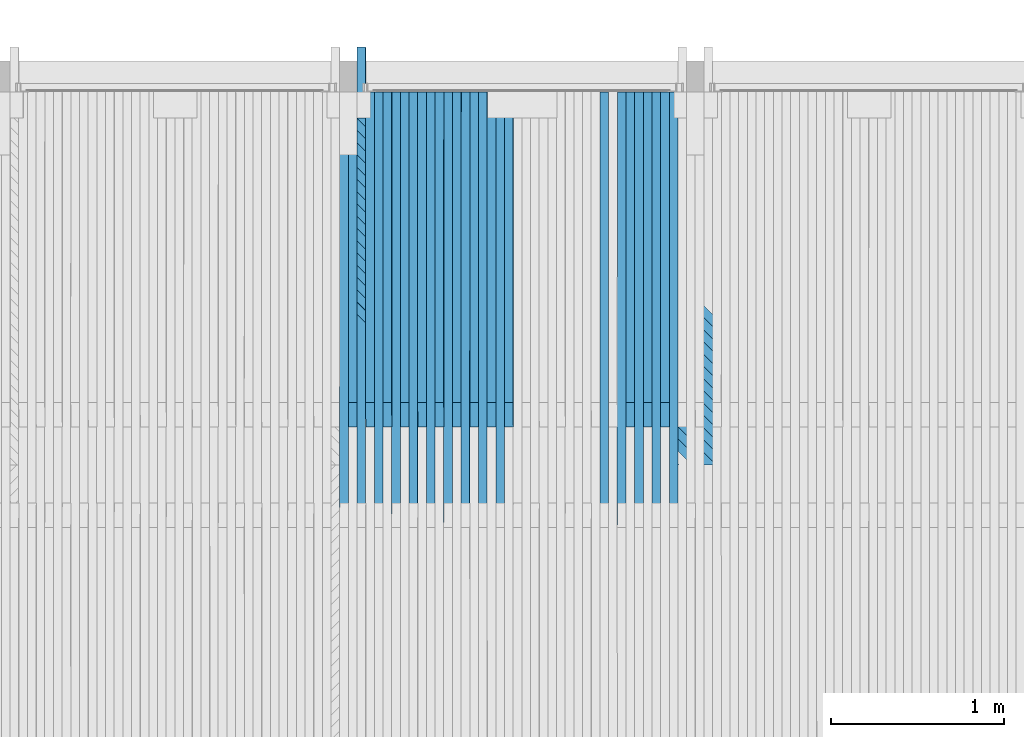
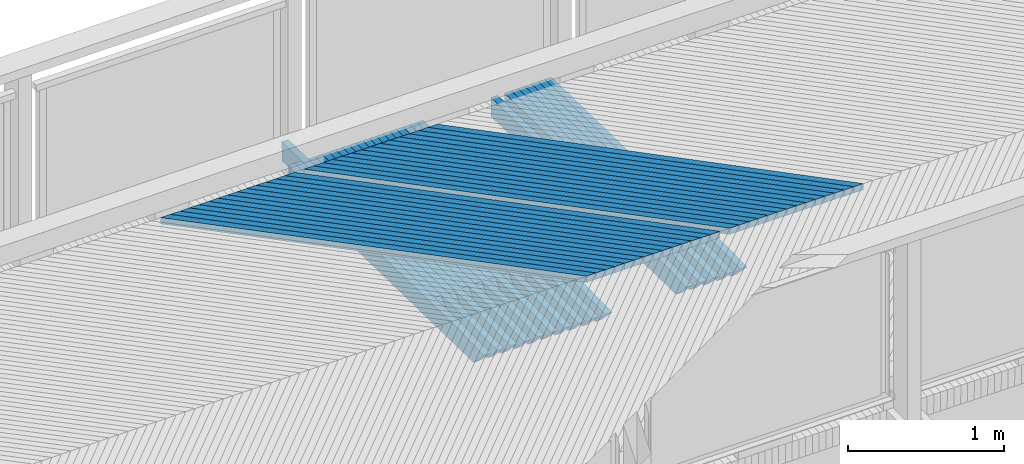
# One storey, part 25 of 65: 56 beams.
"""IFC2X3 building model written with IfcOpenShell, lengths in millimetres."""

from ifc_helpers import new_model, si_unit, frame, origin_with_axes, place, context, subcontext, project, spatial, faceted_brep, material, type_object, element, save


model = new_model("IFC2X3")

# Units and contexts
model_context = context("Model", 3, precision=1e-05, world=origin_with_axes())
body_context = subcontext(model_context, "Body", "Model", "MODEL_VIEW")
ifc_project = project(units=[si_unit("LENGTHUNIT", "METRE", prefix="MILLI"), si_unit("AREAUNIT", "SQUARE_METRE"), si_unit("VOLUMEUNIT", "CUBIC_METRE"), si_unit("MASSUNIT", "GRAM", prefix="KILO"), si_unit("TIMEUNIT", "SECOND"), si_unit("PLANEANGLEUNIT", "RADIAN"), si_unit("SOLIDANGLEUNIT", "STERADIAN"), si_unit("THERMODYNAMICTEMPERATUREUNIT", "DEGREE_CELSIUS"), si_unit("LUMINOUSINTENSITYUNIT", "LUMEN")], contexts=[model_context])

# Site, building, storey
site_placement = place(None, origin_with_axes())
site = spatial("IfcSite", under=ifc_project, at=site_placement, Name="Undefined", CompositionType="ELEMENT")
building_placement = place(site_placement, origin_with_axes())
building = spatial("IfcBuilding", under=site, at=building_placement, Name="Undefined", CompositionType="ELEMENT")
storey_placement = place(building_placement, origin_with_axes())
storey = spatial("IfcBuildingStorey", under=building, at=storey_placement, Name="Undefined", CompositionType="ELEMENT", Elevation=0.0)

# Beams
ifc_material = material(Name="TIMBER/Timber_Undefined")
beam_type_1 = type_object("IfcBeamType", Name="50*50", PredefinedType="NOTDEFINED")
for number, where, z_axis, x_axis, name in (
    (1, (6933.49514567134, 22365.4998996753, 3235.17752037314), (0.707136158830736, 0.706981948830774, -0.0116179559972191), (-0.707068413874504, 0.706948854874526, -0.016660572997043), "BEAM"),
    (2, (6862.77103065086, 22365.4998996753, 3235.04809435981), (0.707137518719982, 0.706981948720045, -0.0115348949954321), (-0.707066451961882, 0.706948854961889, -0.0167436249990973), "BEAM"),
    (3, (6792.04693132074, 22365.4998996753, 3234.91036104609), (0.707138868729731, 0.706981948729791, -0.0114518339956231), (-0.707064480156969, 0.706948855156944, -0.0168266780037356), "BEAM"),
    (4, (6721.32284865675, 22365.4998996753, 3234.76432043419), (0.707140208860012, 0.706981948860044, -0.0113687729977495), (-0.707062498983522, 0.706948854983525, -0.0169097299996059), "BEAM"),
    (5, (6650.59878363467, 22365.4998996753, 3234.60997252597), (0.707141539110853, 0.706981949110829, -0.011285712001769), (-0.707060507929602, 0.706948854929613, -0.0169927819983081), "BEAM"),
    (6, (6579.8747372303, 22365.4998996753, 3234.44731732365), (0.707142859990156, 0.706981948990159, -0.0112026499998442), (-0.707058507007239, 0.706948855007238, -0.0170758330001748), "BEAM"),
    (7, (6509.1507104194, 22365.4998996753, 3234.27635482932), (0.707144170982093, 0.706981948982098, -0.0111195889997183), (-0.707056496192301, 0.706948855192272, -0.0171588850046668), "BEAM"),
    (8, (6438.42670417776, 22365.4998996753, 3234.09708504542), (0.707145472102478, 0.706981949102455, -0.0110365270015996), (-0.707054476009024, 0.706948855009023, -0.01724193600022), "BEAM"),
    (9, (6367.70271948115, 22365.4998996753, 3233.9095079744), (0.707146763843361, 0.706981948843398, -0.0109534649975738), (-0.707052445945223, 0.706948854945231, -0.0173249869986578), "BEAM"),
    (10, (6296.97875730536, 22365.4998996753, 3233.71362361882), (0.707148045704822, 0.706981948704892, -0.0108704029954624), (-0.707050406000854, 0.706948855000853, -0.0174080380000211), "BEAM"),
    (11, (6226.25481862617, 22365.4998996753, 3233.5094319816), (0.70714931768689, 0.706981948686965, -0.0107873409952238), (-0.707048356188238, 0.706948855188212, -0.0174910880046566), "BEAM"),
    (12, (6155.53090441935, 22365.4998996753, 3233.29693306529), (0.707150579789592, 0.706981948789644, -0.0107042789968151), (-0.707046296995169, 0.706948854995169, -0.01757413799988), "BEAM"),
    (13, (6084.80701566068, 22365.4998996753, 3233.07612687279), (0.707151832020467, 0.706981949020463, -0.0106212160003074), (-0.70704422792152, 0.706948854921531, -0.01765718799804), "BEAM"),
    (14, (6014.08315332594, 22365.4998996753, 3232.84701340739), (0.707153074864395, 0.706981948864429, -0.010538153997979), (-0.707042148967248, 0.706948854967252, -0.0177402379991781), "BEAM"),
    (15, (5872.63551183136, 22365.4998996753, 3232.36386467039), (0.707155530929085, 0.706981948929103, -0.0103720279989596), (-0.707037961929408, 0.706948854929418, -0.0179063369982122), "BEAM"),
    (16, (5801.91173462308, 22365.4998996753, 3232.10982940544), (0.707156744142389, 0.706981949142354, -0.0102889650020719), (-0.707035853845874, 0.706948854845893, -0.0179893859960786), "BEAM"),
    (17, (5731.18798774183, 22365.4998996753, 3231.84748688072), (0.707157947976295, 0.706981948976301, -0.010205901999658), (-0.707033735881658, 0.706948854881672, -0.0180724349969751), "BEAM"),
    (18, (5660.46427216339, 22365.4998996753, 3231.57683709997), (0.707159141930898, 0.706981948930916, -0.0101228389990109), (-0.707031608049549, 0.706948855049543, -0.0181554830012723), "BEAM"),
    (19, (5589.74058886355, 22365.4998996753, 3231.29788006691), (0.707160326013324, 0.706981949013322, -0.0100397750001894), (-0.707029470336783, 0.706948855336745, -0.0182385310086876), "BEAM"),
    (20, (5519.01693881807, 22365.4998996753, 3231.01061578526), (0.707161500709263, 0.706981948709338, -0.00995671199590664), (-0.707027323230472, 0.706948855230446, -0.0183215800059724), "BEAM"),
    (21, (5448.29332300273, 22365.4998996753, 3230.71504425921), (0.707162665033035, 0.706981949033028, -0.00987364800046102), (-0.707025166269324, 0.706948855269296, -0.0184046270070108), "BEAM"),
    (22, (5377.5697423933, 22365.4998996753, 3230.41116549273), (0.707163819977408, 0.706981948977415, -0.00979058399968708), (-0.70702299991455, 0.706948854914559, -0.0184876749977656), "BEAM"),
    (23, (5306.84619796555, 22365.4998996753, 3230.09897948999), (0.707164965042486, 0.706981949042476, -0.00970752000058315), (-0.707020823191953, 0.706948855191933, -0.0185707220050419), "BEAM"),
    (24, (5236.12269069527, 22365.4998996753, 3229.77848625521), (0.707166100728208, 0.70698194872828, -0.00962445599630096), (-0.707018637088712, 0.706948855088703, -0.0186537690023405), "BEAM"),
    (25, (5165.39922155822, 22365.4998996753, 3229.44968579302), (0.707167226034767, 0.706981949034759, -0.00954139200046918), (-0.707016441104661, 0.706948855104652, -0.0187368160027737), "BEAM"),
    (26, (5094.67579153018, 22365.4998996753, 3229.11257810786), (0.707168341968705, 0.706981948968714, -0.00945832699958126), (-0.70701423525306, 0.706948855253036, -0.0188198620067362), "BEAM"),
    (27, (5023.95240158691, 22365.4998996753, 3228.76716320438), (0.707169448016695, 0.706981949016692, -0.00937526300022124), (-0.70701202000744, 0.706948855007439, -0.0189029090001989), "BEAM"),
    (28, (4953.22905270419, 22365.4998996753, 3228.41344108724), (0.707170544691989, 0.706981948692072, -0.00929219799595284), (-0.70700979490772, 0.706948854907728, -0.018985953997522), "BEAM"),
):
    element("IfcBeam", number, at=place(storey_placement, frame(where, z_axis=z_axis, x_axis=x_axis)), inside=storey, type_object=beam_type_1, material=ifc_material, Name=name, ObjectType="50*50", context=body_context, shape_type="Brep", body=[
        faceted_brep([(23.5869248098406, 24.9999999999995, -24.9999999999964), (-26.4154158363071, 24.9999999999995, 24.9999999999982), (2802.92643296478, 25.0, 25.0), (2852.92877373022, 25.0000000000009, -25.0), (-25.0011704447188, -25.0, 24.9999999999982), (2804.34067830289, -25.0, 25.0000000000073), (25.0011701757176, -25.0000000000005, -24.9999999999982), (2854.34301907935, -24.9999999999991, -25.0000000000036)], [[[0, 1, 2, 3]], [[1, 4, 5, 2]], [[4, 6, 7, 5]], [[6, 0, 3, 7]], [[5, 7, 3, 2]], [[6, 4, 1, 0]]]),
    ])
beam_type_2 = type_object("IfcBeamType", Name="150*50", PredefinedType="NOTDEFINED")
for number, where, z_axis, x_axis, name in (
    (29, (5875.95475998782, 24513.4953923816, 3089.40059139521), (-0.00361017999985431, 0.0199960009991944, 0.999793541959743), (-7.22040000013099e-05, -0.999800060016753, 0.019995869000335), "BEAM"),
    (30, (5775.93537890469, 24513.4953923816, 3089.0393605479), (-0.00377630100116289, 0.0199960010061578, 0.999792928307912), (-7.55270000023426e-05, -0.999800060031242, 0.0199958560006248), "BEAM"),
):
    element("IfcBeam", number, at=place(storey_placement, frame(where, z_axis=z_axis, x_axis=x_axis)), inside=storey, type_object=beam_type_2, material=ifc_material, Name=name, ObjectType="150*50", context=body_context, shape_type="Brep", body=[
        faceted_brep([(-1.6778358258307e-07, -24.9999999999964, -74.9999999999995), (-1.6778358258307e-07, 25.0000000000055, -75.0), (2375.00494422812, 25.0000000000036, -75.0), (2375.00494447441, -24.9999999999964, -74.9999999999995), (1.67790858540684e-07, -24.9999999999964, 75.0000000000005), (1.67790858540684e-07, 25.0000000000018, 74.9999999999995), (2150.42515052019, 25.0000000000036, 74.9999999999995), (2510.59248715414, 25.0000000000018, 60.5875433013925), (2510.59248714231, -24.9999999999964, 60.5875430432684), (2150.42514405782, -24.9999999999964, 75.0000000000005)], [[[0, 1, 2, 3]], [[0, 4, 5, 1]], [[2, 1, 5, 6, 7]], [[3, 2, 7, 8]], [[4, 0, 3, 8, 9]], [[5, 4, 9, 6]], [[8, 7, 6, 9]]]),
    ])
beam_1_placement = place(storey_placement, frame((5825.95508575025, 24513.4953923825, 3089.21997974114), z_axis=(-0.00361017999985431, 0.0199960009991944, 0.999793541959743), x_axis=(-7.22040000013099e-05, -0.999800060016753, 0.019995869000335)))
element("IfcBeam", 31, at=beam_1_placement, inside=storey, type_object=beam_type_2, material=ifc_material, Name="BEAM", ObjectType="150*50", context=body_context, shape_type="Brep", body=[
    faceted_brep([(-1.6778358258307e-07, -24.9999999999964, -74.9999999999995), (1.67790858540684e-07, -24.9999999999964, 75.0000000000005), (1.67790858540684e-07, 25.0000000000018, 74.9999999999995), (-1.6778358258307e-07, 25.0000000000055, -75.0), (1928.42646328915, 24.9999999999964, -75.0), (1928.42646353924, -25.0, -75.0000000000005), (1789.96936433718, -25.0000000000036, 74.9999999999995), (1789.96936408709, 24.9999999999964, 75.0)], [[[0, 1, 2, 3]], [[0, 3, 4, 5]], [[1, 0, 5, 6]], [[2, 1, 6, 7]], [[3, 2, 7, 4]], [[4, 7, 6, 5]]]),
])
beam_2_placement = place(storey_placement, frame((5675.91605922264, 24513.4953923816, 3088.66151095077), z_axis=(-0.00394242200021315, 0.0199960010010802, 0.999792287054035), x_axis=(-7.88490000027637e-05, -0.999800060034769, 0.0199958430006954)))
element("IfcBeam", 32, at=beam_2_placement, inside=storey, type_object=beam_type_2, material=ifc_material, Name="BEAM", ObjectType="150*50", context=body_context, shape_type="Brep", body=[
    faceted_brep([(-1.6778358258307e-07, -24.9999999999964, -74.9999999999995), (-1.6778358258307e-07, 25.0000000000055, -75.0), (2375.00494422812, 25.0000000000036, -75.0), (2375.00494447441, -24.9999999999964, -74.9999999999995), (1.67790858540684e-07, -24.9999999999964, 75.0000000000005), (1.67790858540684e-07, 25.0000000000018, 74.9999999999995), (2150.42515052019, 25.0000000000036, 74.9999999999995), (2510.59248715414, 25.0000000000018, 60.5875433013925), (2510.59248714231, -24.9999999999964, 60.5875430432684), (2150.42514405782, -24.9999999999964, 75.0000000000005)], [[[0, 1, 2, 3]], [[0, 4, 5, 1]], [[2, 1, 5, 6, 7]], [[3, 2, 7, 8]], [[4, 0, 3, 8, 9]], [[5, 4, 9, 6]], [[8, 7, 6, 9]]]),
])
beam_3_placement = place(storey_placement, frame((5725.9357353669, 24513.4953923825, 3088.8504411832), z_axis=(-0.00377630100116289, 0.0199960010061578, 0.999792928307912), x_axis=(-7.55270000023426e-05, -0.999800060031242, 0.0199958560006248)))
element("IfcBeam", 33, at=beam_3_placement, inside=storey, type_object=beam_type_2, material=ifc_material, Name="BEAM", ObjectType="150*50", context=body_context, shape_type="Brep", body=[
    faceted_brep([(-1.6778358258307e-07, -24.9999999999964, -74.9999999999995), (1.67790858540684e-07, -24.9999999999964, 75.0000000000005), (1.67790858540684e-07, 25.0000000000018, 74.9999999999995), (-1.6778358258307e-07, 25.0000000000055, -75.0), (1928.42646328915, 24.9999999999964, -75.0), (1928.42646353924, -25.0, -75.0000000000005), (1789.96936433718, -25.0000000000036, 74.9999999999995), (1789.96936408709, 24.9999999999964, 75.0)], [[[0, 1, 2, 3]], [[0, 3, 4, 5]], [[1, 0, 5, 6]], [[2, 1, 6, 7]], [[3, 2, 7, 4]], [[4, 7, 6, 5]]]),
])
beam_4_placement = place(storey_placement, frame((5575.89680370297, 24513.4953923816, 3088.2670426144), z_axis=(-0.00410854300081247, 0.0199960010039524, 0.999791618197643), x_axis=(-8.21720000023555e-05, -0.99980006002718, 0.0199958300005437)))
element("IfcBeam", 34, at=beam_4_placement, inside=storey, type_object=beam_type_2, material=ifc_material, Name="BEAM", ObjectType="150*50", context=body_context, shape_type="Brep", body=[
    faceted_brep([(-1.6778358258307e-07, -24.9999999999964, -74.9999999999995), (-1.6778358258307e-07, 25.0000000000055, -75.0), (2375.00494422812, 25.0000000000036, -75.0), (2375.00494447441, -24.9999999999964, -74.9999999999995), (1.67790858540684e-07, -24.9999999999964, 75.0000000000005), (1.67790858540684e-07, 25.0000000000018, 74.9999999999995), (2150.42515052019, 25.0000000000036, 74.9999999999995), (2510.59248715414, 25.0000000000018, 60.5875433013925), (2510.59248714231, -24.9999999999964, 60.5875430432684), (2150.42514405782, -24.9999999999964, 75.0000000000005)], [[[0, 1, 2, 3]], [[0, 4, 5, 1]], [[2, 1, 5, 6, 7]], [[3, 2, 7, 8]], [[4, 0, 3, 8, 9]], [[5, 4, 9, 6]], [[8, 7, 6, 9]]]),
])
beam_5_placement = place(storey_placement, frame((5625.916447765, 24513.4953923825, 3088.46428388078), z_axis=(-0.00394242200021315, 0.0199960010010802, 0.999792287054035), x_axis=(-7.88490000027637e-05, -0.999800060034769, 0.0199958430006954)))
element("IfcBeam", 35, at=beam_5_placement, inside=storey, type_object=beam_type_2, material=ifc_material, Name="BEAM", ObjectType="150*50", context=body_context, shape_type="Brep", body=[
    faceted_brep([(-1.6778358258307e-07, -24.9999999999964, -74.9999999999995), (1.67790858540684e-07, -24.9999999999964, 75.0000000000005), (1.67790858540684e-07, 25.0000000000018, 74.9999999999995), (-1.6778358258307e-07, 25.0000000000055, -75.0), (1928.42646328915, 24.9999999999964, -75.0), (1928.42646353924, -25.0, -75.0000000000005), (1789.96936433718, -25.0000000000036, 74.9999999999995), (1789.96936408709, 24.9999999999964, 75.0)], [[[0, 1, 2, 3]], [[0, 3, 4, 5]], [[1, 0, 5, 6]], [[2, 1, 6, 7]], [[3, 2, 7, 4]], [[4, 7, 6, 5]]]),
])
for number, where, z_axis, x_axis, name in (
    (36, (5475.87761510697, 24513.4953923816, 3087.85595554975), (-0.00427466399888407, 0.0199960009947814, 0.999790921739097), (-8.54940000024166e-05, -0.999800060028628, 0.0199958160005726), "BEAM"),
    (37, (4875.76404356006, 24513.4953923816, 3085.04044053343), (-0.00527138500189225, 0.0199960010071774, 0.999786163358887), (-0.000105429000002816, -0.999800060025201, 0.019995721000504), "BEAM"),
):
    element("IfcBeam", number, at=place(storey_placement, frame(where, z_axis=z_axis, x_axis=x_axis)), inside=storey, type_object=beam_type_2, material=ifc_material, Name=name, ObjectType="150*50", context=body_context, shape_type="Brep", body=[
        faceted_brep([(-1.6778358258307e-07, -24.9999999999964, -74.9999999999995), (-1.6778358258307e-07, 25.0000000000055, -75.0), (2375.00494422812, 25.0000000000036, -75.0), (2375.00494447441, -24.9999999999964, -74.9999999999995), (1.67790858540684e-07, -24.9999999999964, 75.0000000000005), (1.67790858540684e-07, 25.0000000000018, 74.9999999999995), (2150.42515052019, 25.0000000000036, 74.9999999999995), (2510.59248715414, 25.0000000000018, 60.5875433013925), (2510.59248714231, -24.9999999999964, 60.5875430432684), (2150.42514405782, -24.9999999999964, 75.0000000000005)], [[[0, 1, 2, 3]], [[0, 4, 5, 1]], [[2, 1, 5, 6, 7]], [[3, 2, 7, 8]], [[4, 0, 3, 8, 9]], [[5, 4, 9, 6]], [[8, 7, 6, 9]]]),
    ])
beam_6_placement = place(storey_placement, frame((4925.78342438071, 24513.4953923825, 3085.29585887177), z_axis=(-0.00510526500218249, 0.0199960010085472, 0.999787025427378), x_axis=(-0.000102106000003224, -0.999800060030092, 0.0199957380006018)))
element("IfcBeam", 38, at=beam_6_placement, inside=storey, type_object=beam_type_2, material=ifc_material, Name="BEAM", ObjectType="150*50", context=body_context, shape_type="Brep", body=[
    faceted_brep([(-1.6778358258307e-07, -24.9999999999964, -74.9999999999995), (1.67790858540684e-07, -24.9999999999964, 75.0000000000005), (1.67790858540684e-07, 25.0000000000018, 74.9999999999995), (-1.6778358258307e-07, 25.0000000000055, -75.0), (1928.42646328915, 24.9999999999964, -75.0), (1928.42646353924, -25.0, -75.0000000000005), (1789.96936433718, -25.0000000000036, 74.9999999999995), (1789.96936408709, 24.9999999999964, 75.0)], [[[0, 1, 2, 3]], [[0, 3, 4, 5]], [[1, 0, 5, 6]], [[2, 1, 6, 7]], [[3, 2, 7, 4]], [[4, 7, 6, 5]]]),
])
beam_7_placement = place(storey_placement, frame((4775.74540074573, 24513.4953923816, 3084.51302271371), z_axis=(-0.00543750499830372, 0.0199960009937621, 0.999785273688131), x_axis=(-0.000108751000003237, -0.99980006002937, 0.0199957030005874)))
element("IfcBeam", 39, at=beam_7_placement, inside=storey, type_object=beam_type_2, material=ifc_material, Name="BEAM", ObjectType="150*50", context=body_context, shape_type="Brep", body=[
    faceted_brep([(-1.6778358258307e-07, -24.9999999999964, -74.9999999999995), (-1.6778358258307e-07, 25.0000000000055, -75.0), (2375.00494422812, 25.0000000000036, -75.0), (2375.00494447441, -24.9999999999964, -74.9999999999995), (1.67790858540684e-07, -24.9999999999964, 75.0000000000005), (1.67790858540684e-07, 25.0000000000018, 74.9999999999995), (2150.42515052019, 25.0000000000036, 74.9999999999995), (2510.59248715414, 25.0000000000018, 60.5875433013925), (2510.59248714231, -24.9999999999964, 60.5875430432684), (2150.42514405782, -24.9999999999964, 75.0000000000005)], [[[0, 1, 2, 3]], [[0, 4, 5, 1]], [[2, 1, 5, 6, 7]], [[3, 2, 7, 8]], [[4, 0, 3, 8, 9]], [[5, 4, 9, 6]], [[8, 7, 6, 9]]]),
])
beam_8_placement = place(storey_placement, frame((4825.7647384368, 24513.4953923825, 3084.77675203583), z_axis=(-0.00527138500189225, 0.0199960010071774, 0.999786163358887), x_axis=(-0.000105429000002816, -0.999800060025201, 0.019995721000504)))
element("IfcBeam", 40, at=beam_8_placement, inside=storey, type_object=beam_type_2, material=ifc_material, Name="BEAM", ObjectType="150*50", context=body_context, shape_type="Brep", body=[
    faceted_brep([(-1.6778358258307e-07, -24.9999999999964, -74.9999999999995), (1.67790858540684e-07, -24.9999999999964, 75.0000000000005), (1.67790858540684e-07, 25.0000000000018, 74.9999999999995), (-1.6778358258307e-07, 25.0000000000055, -75.0), (1928.42646328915, 24.9999999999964, -75.0), (1928.42646353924, -25.0, -75.0000000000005), (1789.96936433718, -25.0000000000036, 74.9999999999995), (1789.96936408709, 24.9999999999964, 75.0)], [[[0, 1, 2, 3]], [[0, 3, 4, 5]], [[1, 0, 5, 6]], [[2, 1, 6, 7]], [[3, 2, 7, 4]], [[4, 7, 6, 5]]]),
])
beam_9_placement = place(storey_placement, frame((4675.72684694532, 24513.4953923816, 3083.96898626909), z_axis=(-0.0056036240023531, 0.0199960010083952, 0.999784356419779), x_axis=(-0.000112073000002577, -0.999800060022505, 0.0199956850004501)))
element("IfcBeam", 41, at=beam_9_placement, inside=storey, type_object=beam_type_2, material=ifc_material, Name="BEAM", ObjectType="150*50", context=body_context, shape_type="Brep", body=[
    faceted_brep([(-1.6778358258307e-07, -24.9999999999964, -74.9999999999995), (-1.6778358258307e-07, 25.0000000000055, -75.0), (2375.00494422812, 25.0000000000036, -75.0), (2375.00494447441, -24.9999999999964, -74.9999999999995), (1.67790858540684e-07, -24.9999999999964, 75.0000000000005), (1.67790858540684e-07, 25.0000000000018, 74.9999999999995), (2150.42515052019, 25.0000000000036, 74.9999999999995), (2510.59248715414, 25.0000000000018, 60.5875433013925), (2510.59248714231, -24.9999999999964, 60.5875430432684), (2150.42514405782, -24.9999999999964, 75.0000000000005)], [[[0, 1, 2, 3]], [[0, 4, 5, 1]], [[2, 1, 5, 6, 7]], [[3, 2, 7, 8]], [[4, 0, 3, 8, 9]], [[5, 4, 9, 6]], [[8, 7, 6, 9]]]),
])
beam_10_placement = place(storey_placement, frame((4725.7461401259, 24513.4953923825, 3084.24102656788), z_axis=(-0.00543750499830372, 0.0199960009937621, 0.999785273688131), x_axis=(-0.000108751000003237, -0.99980006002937, 0.0199957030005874)))
element("IfcBeam", 42, at=beam_10_placement, inside=storey, type_object=beam_type_2, material=ifc_material, Name="BEAM", ObjectType="150*50", context=body_context, shape_type="Brep", body=[
    faceted_brep([(-1.6778358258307e-07, -24.9999999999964, -74.9999999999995), (1.67790858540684e-07, -24.9999999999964, 75.0000000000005), (1.67790858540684e-07, 25.0000000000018, 74.9999999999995), (-1.6778358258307e-07, 25.0000000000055, -75.0), (1928.42646328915, 24.9999999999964, -75.0), (1928.42646353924, -25.0, -75.0000000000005), (1789.96936433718, -25.0000000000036, 74.9999999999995), (1789.96936408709, 24.9999999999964, 75.0)], [[[0, 1, 2, 3]], [[0, 3, 4, 5]], [[1, 0, 5, 6]], [[2, 1, 6, 7]], [[3, 2, 7, 4]], [[4, 7, 6, 5]]]),
])
beam_11_placement = place(storey_placement, frame((4575.70838492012, 24513.4953923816, 3083.40833121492), z_axis=(-0.00576974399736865, 0.0199960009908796, 0.999783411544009), x_axis=(-0.00011539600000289, -0.999800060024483, 0.0199956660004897)))
element("IfcBeam", 43, at=beam_11_placement, inside=storey, type_object=beam_type_2, material=ifc_material, Name="BEAM", ObjectType="150*50", context=body_context, shape_type="Brep", body=[
    faceted_brep([(-1.6778358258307e-07, -24.9999999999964, -74.9999999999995), (-1.6778358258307e-07, 25.0000000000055, -75.0), (2375.00494422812, 25.0000000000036, -75.0), (2375.00494447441, -24.9999999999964, -74.9999999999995), (1.67790858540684e-07, -24.9999999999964, 75.0000000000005), (1.67790858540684e-07, 25.0000000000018, 74.9999999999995), (2150.42515052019, 25.0000000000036, 74.9999999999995), (2510.59248715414, 25.0000000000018, 60.5875433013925), (2510.59248714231, -24.9999999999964, 60.5875430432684), (2150.42514405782, -24.9999999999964, 75.0000000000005)], [[[0, 1, 2, 3]], [[0, 4, 5, 1]], [[2, 1, 5, 6, 7]], [[3, 2, 7, 8]], [[4, 0, 3, 8, 9]], [[5, 4, 9, 6]], [[8, 7, 6, 9]]]),
])
beam_12_placement = place(storey_placement, frame((4625.72763220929, 24513.4953923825, 3083.68868248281), z_axis=(-0.0056036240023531, 0.0199960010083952, 0.999784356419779), x_axis=(-0.000112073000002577, -0.999800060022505, 0.0199956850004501)))
element("IfcBeam", 44, at=beam_12_placement, inside=storey, type_object=beam_type_2, material=ifc_material, Name="BEAM", ObjectType="150*50", context=body_context, shape_type="Brep", body=[
    faceted_brep([(-1.6778358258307e-07, -24.9999999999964, -74.9999999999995), (1.67790858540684e-07, -24.9999999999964, 75.0000000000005), (1.67790858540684e-07, 25.0000000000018, 74.9999999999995), (-1.6778358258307e-07, 25.0000000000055, -75.0), (1928.42646328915, 24.9999999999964, -75.0), (1928.42646353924, -25.0, -75.0000000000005), (1789.96936433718, -25.0000000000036, 74.9999999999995), (1789.96936408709, 24.9999999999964, 75.0)], [[[0, 1, 2, 3]], [[0, 3, 4, 5]], [[1, 0, 5, 6]], [[2, 1, 6, 7]], [[3, 2, 7, 4]], [[4, 7, 6, 5]]]),
])
beam_13_placement = place(storey_placement, frame((4475.69001743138, 24513.4953923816, 3082.83105756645), z_axis=(-0.00593586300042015, 0.0199960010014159, 0.999782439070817), x_axis=(-0.00011871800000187, -0.999800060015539, 0.0199956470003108)))
element("IfcBeam", 45, at=beam_13_placement, inside=storey, type_object=beam_type_2, material=ifc_material, Name="BEAM", ObjectType="150*50", context=body_context, shape_type="Brep", body=[
    faceted_brep([(-1.6778358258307e-07, -24.9999999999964, -74.9999999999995), (-1.6778358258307e-07, 25.0000000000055, -75.0), (2375.00494422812, 25.0000000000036, -75.0), (2375.00494447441, -24.9999999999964, -74.9999999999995), (1.67790858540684e-07, -24.9999999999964, 75.0000000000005), (1.67790858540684e-07, 25.0000000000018, 74.9999999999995), (2150.42515052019, 25.0000000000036, 74.9999999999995), (2510.59248715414, 25.0000000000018, 60.5875433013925), (2510.59248714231, -24.9999999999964, 60.5875430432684), (2150.42514405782, -24.9999999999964, 75.0000000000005)], [[[0, 1, 2, 3]], [[0, 4, 5, 1]], [[2, 1, 5, 6, 7]], [[3, 2, 7, 8]], [[4, 0, 3, 8, 9]], [[5, 4, 9, 6]], [[8, 7, 6, 9]]]),
])
beam_14_placement = place(storey_placement, frame((4525.70921744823, 24513.4953923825, 3083.11971979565), z_axis=(-0.00576974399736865, 0.0199960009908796, 0.999783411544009), x_axis=(-0.00011539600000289, -0.999800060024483, 0.0199956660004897)))
element("IfcBeam", 46, at=beam_14_placement, inside=storey, type_object=beam_type_2, material=ifc_material, Name="BEAM", ObjectType="150*50", context=body_context, shape_type="Brep", body=[
    faceted_brep([(-1.6778358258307e-07, -24.9999999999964, -74.9999999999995), (1.67790858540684e-07, -24.9999999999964, 75.0000000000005), (1.67790858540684e-07, 25.0000000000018, 74.9999999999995), (-1.6778358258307e-07, 25.0000000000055, -75.0), (1928.42646328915, 24.9999999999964, -75.0), (1928.42646353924, -25.0, -75.0000000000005), (1789.96936433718, -25.0000000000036, 74.9999999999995), (1789.96936408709, 24.9999999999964, 75.0)], [[[0, 1, 2, 3]], [[0, 3, 4, 5]], [[1, 0, 5, 6]], [[2, 1, 6, 7]], [[3, 2, 7, 4]], [[4, 7, 6, 5]]]),
])
beam_15_placement = place(storey_placement, frame((4375.67174724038, 24513.4953923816, 3082.23716533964), z_axis=(-0.00610198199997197, 0.0199960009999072, 0.999781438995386), x_axis=(-0.000122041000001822, -0.999800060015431, 0.0199956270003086)))
element("IfcBeam", 47, at=beam_15_placement, inside=storey, type_object=beam_type_2, material=ifc_material, Name="BEAM", ObjectType="150*50", context=body_context, shape_type="Brep", body=[
    faceted_brep([(-1.6778358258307e-07, -24.9999999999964, -74.9999999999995), (-1.6778358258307e-07, 25.0000000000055, -75.0), (2375.00494422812, 25.0000000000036, -75.0), (2375.00494447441, -24.9999999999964, -74.9999999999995), (1.67790858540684e-07, -24.9999999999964, 75.0000000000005), (1.67790858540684e-07, 25.0000000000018, 74.9999999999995), (2150.42515052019, 25.0000000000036, 74.9999999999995), (2510.59248715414, 25.0000000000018, 60.5875433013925), (2510.59248714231, -24.9999999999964, 60.5875430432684), (2150.42514405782, -24.9999999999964, 75.0000000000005)], [[[0, 1, 2, 3]], [[0, 4, 5, 1]], [[2, 1, 5, 6, 7]], [[3, 2, 7, 8]], [[4, 0, 3, 8, 9]], [[5, 4, 9, 6]], [[8, 7, 6, 9]]]),
])
beam_16_placement = place(storey_placement, frame((4425.690898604, 24513.4953923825, 3082.53413852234), z_axis=(-0.00593586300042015, 0.0199960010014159, 0.999782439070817), x_axis=(-0.00011871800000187, -0.999800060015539, 0.0199956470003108)))
element("IfcBeam", 48, at=beam_16_placement, inside=storey, type_object=beam_type_2, material=ifc_material, Name="BEAM", ObjectType="150*50", context=body_context, shape_type="Brep", body=[
    faceted_brep([(-1.6778358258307e-07, -24.9999999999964, -74.9999999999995), (1.67790858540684e-07, -24.9999999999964, 75.0000000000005), (1.67790858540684e-07, 25.0000000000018, 74.9999999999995), (-1.6778358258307e-07, 25.0000000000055, -75.0), (1928.42646328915, 24.9999999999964, -75.0), (1928.42646353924, -25.0, -75.0000000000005), (1789.96936433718, -25.0000000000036, 74.9999999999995), (1789.96936408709, 24.9999999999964, 75.0)], [[[0, 1, 2, 3]], [[0, 3, 4, 5]], [[1, 0, 5, 6]], [[2, 1, 6, 7]], [[3, 2, 7, 4]], [[4, 7, 6, 5]]]),
])
beam_17_placement = place(storey_placement, frame((4275.65357710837, 24513.4953923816, 3081.62665455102), z_axis=(-0.00626810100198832, 0.0199960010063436, 0.999780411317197), x_axis=(-0.000125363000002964, -0.999800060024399, 0.0199956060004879)))
element("IfcBeam", 49, at=beam_17_placement, inside=storey, type_object=beam_type_2, material=ifc_material, Name="BEAM", ObjectType="150*50", context=body_context, shape_type="Brep", body=[
    faceted_brep([(-1.6778358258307e-07, -24.9999999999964, -74.9999999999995), (-1.6778358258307e-07, 25.0000000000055, -75.0), (2375.00494422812, 25.0000000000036, -75.0), (2375.00494447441, -24.9999999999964, -74.9999999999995), (1.67790858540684e-07, -24.9999999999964, 75.0000000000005), (1.67790858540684e-07, 25.0000000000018, 74.9999999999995), (2150.42515052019, 25.0000000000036, 74.9999999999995), (2510.59248715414, 25.0000000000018, 60.5875433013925), (2510.59248714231, -24.9999999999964, 60.5875430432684), (2150.42514405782, -24.9999999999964, 75.0000000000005)], [[[0, 1, 2, 3]], [[0, 4, 5, 1]], [[2, 1, 5, 6, 7]], [[3, 2, 7, 8]], [[4, 0, 3, 8, 9]], [[5, 4, 9, 6]], [[8, 7, 6, 9]]]),
])
beam_18_placement = place(storey_placement, frame((4325.67267843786, 24513.4953923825, 3081.93193867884), z_axis=(-0.00610198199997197, 0.0199960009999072, 0.999781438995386), x_axis=(-0.000122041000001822, -0.999800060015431, 0.0199956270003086)))
element("IfcBeam", 50, at=beam_18_placement, inside=storey, type_object=beam_type_2, material=ifc_material, Name="BEAM", ObjectType="150*50", context=body_context, shape_type="Brep", body=[
    faceted_brep([(-1.6778358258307e-07, -24.9999999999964, -74.9999999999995), (1.67790858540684e-07, -24.9999999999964, 75.0000000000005), (1.67790858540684e-07, 25.0000000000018, 74.9999999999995), (-1.6778358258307e-07, 25.0000000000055, -75.0), (1928.42646328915, 24.9999999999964, -75.0), (1928.42646353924, -25.0, -75.0000000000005), (1789.96936433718, -25.0000000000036, 74.9999999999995), (1789.96936408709, 24.9999999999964, 75.0)], [[[0, 1, 2, 3]], [[0, 3, 4, 5]], [[1, 0, 5, 6]], [[2, 1, 6, 7]], [[3, 2, 7, 4]], [[4, 7, 6, 5]]]),
])
beam_19_placement = place(storey_placement, frame((4175.63550979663, 24513.4953923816, 3080.99952521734), z_axis=(-0.00643422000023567, 0.0199960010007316, 0.999779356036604), x_axis=(-0.000128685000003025, -0.999800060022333, 0.0199955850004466)))
element("IfcBeam", 51, at=beam_19_placement, inside=storey, type_object=beam_type_2, material=ifc_material, Name="BEAM", ObjectType="150*50", context=body_context, shape_type="Brep", body=[
    faceted_brep([(-1.6778358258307e-07, -24.9999999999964, -74.9999999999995), (-1.6778358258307e-07, 25.0000000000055, -75.0), (2375.00494422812, 25.0000000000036, -75.0), (2375.00494447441, -24.9999999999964, -74.9999999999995), (1.67790858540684e-07, -24.9999999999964, 75.0000000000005), (1.67790858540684e-07, 25.0000000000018, 74.9999999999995), (2150.42515052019, 25.0000000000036, 74.9999999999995), (2510.59248715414, 25.0000000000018, 60.5875433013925), (2510.59248714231, -24.9999999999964, 60.5875430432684), (2150.42514405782, -24.9999999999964, 75.0000000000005)], [[[0, 1, 2, 3]], [[0, 4, 5, 1]], [[2, 1, 5, 6, 7]], [[3, 2, 7, 8]], [[4, 0, 3, 8, 9]], [[5, 4, 9, 6]], [[8, 7, 6, 9]]]),
])
for number, where, z_axis, x_axis, name in (
    (52, (4225.65455971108, 24513.4953923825, 3081.31312028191), (-0.00626810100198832, 0.0199960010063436, 0.999780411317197), (-0.000125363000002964, -0.999800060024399, 0.0199956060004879), "BEAM"),
    (53, (4125.63654518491, 24513.4953923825, 3080.67768334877), (-0.00643422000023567, 0.0199960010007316, 0.999779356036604), (-0.000128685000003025, -0.999800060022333, 0.0199955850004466), "BEAM"),
):
    element("IfcBeam", number, at=place(storey_placement, frame(where, z_axis=z_axis, x_axis=x_axis)), inside=storey, type_object=beam_type_2, material=ifc_material, Name=name, ObjectType="150*50", context=body_context, shape_type="Brep", body=[
        faceted_brep([(-1.6778358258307e-07, -24.9999999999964, -74.9999999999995), (1.67790858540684e-07, -24.9999999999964, 75.0000000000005), (1.67790858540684e-07, 25.0000000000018, 74.9999999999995), (-1.6778358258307e-07, 25.0000000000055, -75.0), (1928.42646328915, 24.9999999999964, -75.0), (1928.42646353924, -25.0, -75.0000000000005), (1789.96936433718, -25.0000000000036, 74.9999999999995), (1789.96936408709, 24.9999999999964, 75.0)], [[[0, 1, 2, 3]], [[0, 3, 4, 5]], [[1, 0, 5, 6]], [[2, 1, 6, 7]], [[3, 2, 7, 4]], [[4, 7, 6, 5]]]),
    ])
beam_20_placement = place(storey_placement, frame((3975.59969467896, 24513.4953923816, 3079.69541098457), z_axis=(-0.0067664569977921, 0.0199960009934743, 0.999777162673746), x_axis=(-0.000135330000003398, -0.999800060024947, 0.019995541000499)))
element("IfcBeam", 54, at=beam_20_placement, inside=storey, type_object=beam_type_2, material=ifc_material, Name="BEAM", ObjectType="150*50", context=body_context, shape_type="Brep", body=[
    faceted_brep([(-1.6778358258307e-07, -24.9999999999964, -74.9999999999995), (-1.6778358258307e-07, 25.0000000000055, -75.0), (2375.00494422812, 25.0000000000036, -75.0), (2375.00494447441, -24.9999999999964, -74.9999999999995), (1.67790858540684e-07, -24.9999999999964, 75.0000000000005), (1.67790858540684e-07, 25.0000000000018, 74.9999999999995), (2150.42515052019, 25.0000000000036, 74.9999999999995), (2510.59248715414, 25.0000000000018, 60.5875433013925), (2510.59248714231, -24.9999999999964, 60.5875430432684), (2150.42514405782, -24.9999999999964, 75.0000000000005)], [[[0, 1, 2, 3]], [[0, 4, 5, 1]], [[2, 1, 5, 6, 7]], [[3, 2, 7, 8]], [[4, 0, 3, 8, 9]], [[5, 4, 9, 6]], [[8, 7, 6, 9]]]),
])
beam_21_placement = place(storey_placement, frame((4025.61863762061, 24513.4953923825, 3080.02562789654), z_axis=(-0.00660033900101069, 0.0199960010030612, 0.999778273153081), x_axis=(-0.000132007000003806, -0.999800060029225, 0.0199955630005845)))
element("IfcBeam", 55, at=beam_21_placement, inside=storey, type_object=beam_type_2, material=ifc_material, Name="BEAM", ObjectType="150*50", context=body_context, shape_type="Brep", body=[
    faceted_brep([(-1.6778358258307e-07, -24.9999999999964, -74.9999999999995), (1.67790858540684e-07, -24.9999999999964, 75.0000000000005), (1.67790858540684e-07, 25.0000000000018, 74.9999999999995), (-1.6778358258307e-07, 25.0000000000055, -75.0), (1928.42646328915, 24.9999999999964, -75.0), (1928.42646353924, -25.0, -75.0000000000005), (1789.96936433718, -25.0000000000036, 74.9999999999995), (1789.96936408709, 24.9999999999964, 75.0)], [[[0, 1, 2, 3]], [[0, 3, 4, 5]], [[1, 0, 5, 6]], [[2, 1, 6, 7]], [[3, 2, 7, 4]], [[4, 7, 6, 5]]]),
])
beam_22_placement = place(storey_placement, frame((4075.44148607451, 24771.443807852, 3075.1954858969), z_axis=(-0.00660033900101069, 0.0199960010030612, 0.999778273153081), x_axis=(-0.000132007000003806, -0.999800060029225, 0.0199955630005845)))
element("IfcBeam", 56, at=beam_22_placement, inside=storey, type_object=beam_type_2, material=ifc_material, Name="BEAM", ObjectType="150*50", context=body_context, shape_type="Brep", body=[
    faceted_brep([(-1.6778358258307e-07, -24.9999999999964, -74.9999999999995), (-1.6778358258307e-07, 25.0000000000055, -75.0), (2633.00494750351, 24.9999999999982, -74.9999999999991), (2633.00494763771, -25.0000000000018, -74.9999999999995), (1.67790858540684e-07, -24.9999999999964, 75.0000000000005), (1.67790858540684e-07, 25.0000000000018, 74.9999999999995), (2408.42506824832, 24.9999999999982, 75.0000000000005), (2768.59248710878, 24.9999999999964, 60.587539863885), (2768.59248713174, -25.0000000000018, 60.5875397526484), (2408.42506549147, -25.0000000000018, 75.0000000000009)], [[[0, 1, 2, 3]], [[0, 4, 5, 1]], [[2, 1, 5, 6, 7]], [[3, 2, 7, 8]], [[4, 0, 3, 8, 9]], [[5, 4, 9, 6]], [[8, 7, 6, 9]]]),
])

save(model, "model.ifc")
